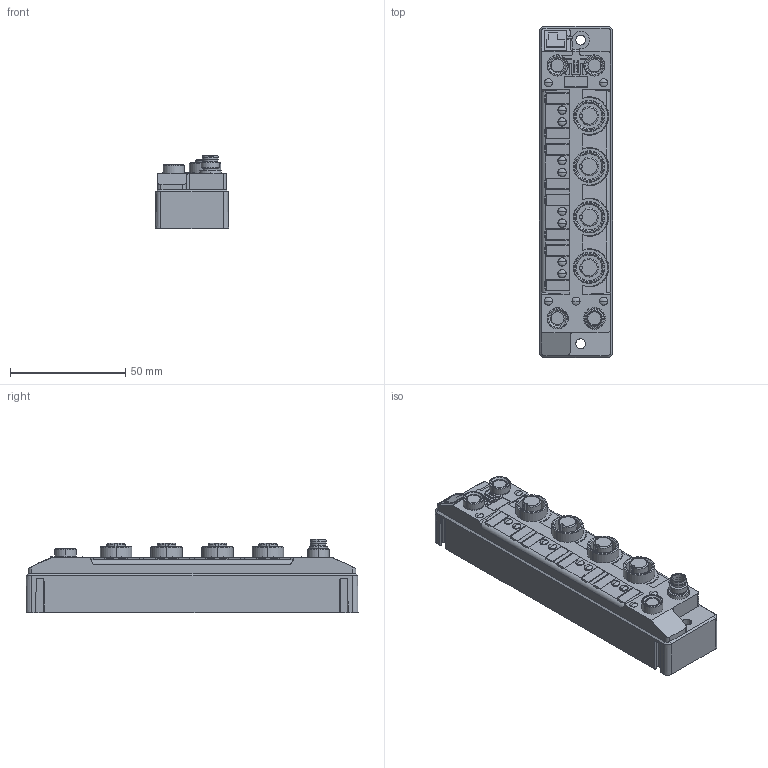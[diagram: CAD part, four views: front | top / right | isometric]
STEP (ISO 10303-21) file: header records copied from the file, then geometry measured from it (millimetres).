
FILE_DESCRIPTION (( 'STEP AP203' ), '1' );
FILE_NAME ('TBEN-S2.step', '2017-11-01T19:50:41', ( '' ), ( '' ), 'SwSTEP 2.0', 'SolidWorks 2015', '' );
FILE_SCHEMA (( 'CONFIG_CONTROL_DESIGN' ));
Length unit declared in the file: millimetre
Products named in the file (2): TBEN-S2
Bounding box: 31.9 x 144.3 x 32.1 mm (x, y, z)
Volume: 104641.7 mm3; surface area: 23009.8 mm2
Topology: 1 solids, 1 shells, 551 faces, 1469 edges, 933 vertices
Faces by surface type: plane 266, cylinder 147, cone 86, bspline 26, torus 26
Entity records: 17528 total; most frequent: CARTESIAN_POINT 3764, ORIENTED_EDGE 2886, DIRECTION 2852, EDGE_CURVE 1443, AXIS2_PLACEMENT_3D 995, VERTEX_POINT 933, LINE 862, VECTOR 862
